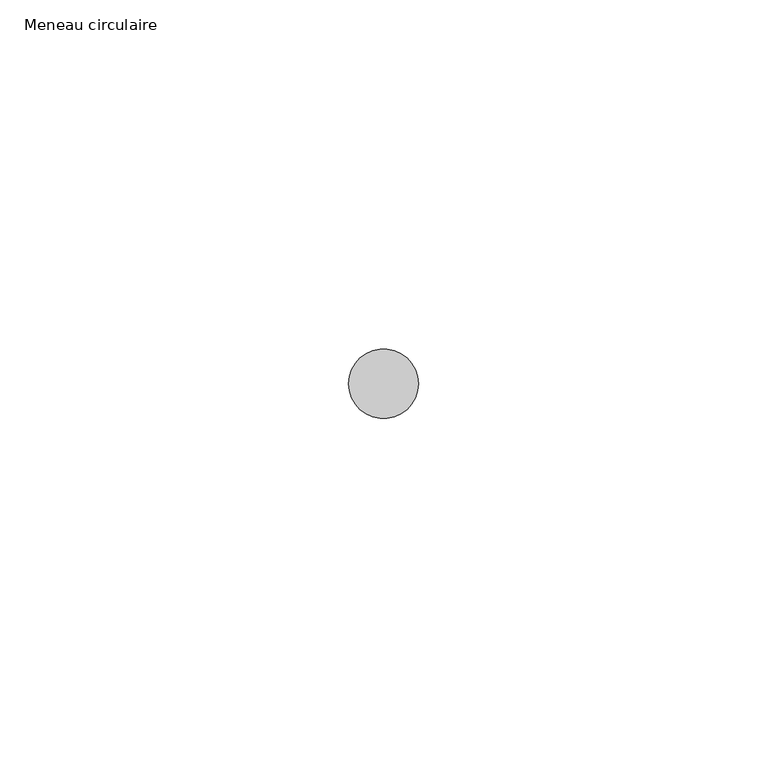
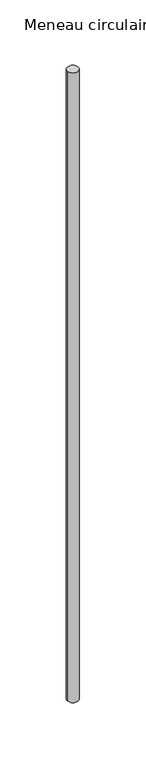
"""IFC4 building model written with IfcOpenShell, lengths in millimetres: member geometry, Meneau circulaire : Diamètre 1cm."""

from ifc_helpers import new_model, si_unit, point, frame, origin, origin_2d, place, context, project, spatial, circle_curve, trimmed, segment, composite_curve, outline, extrude, source, transform, mapped, element, save


def meneau_circulaire_4e4b9db8(model_context):
    return source(origin(), model_context, "Body", "SweptSolid", [
        extrude(outline(composite_curve([segment(trimmed(circle_curve(origin_2d(), 5.0), [point((5.0, 0.0))], [point((-5.0, 0.0))], False, "CARTESIAN"), True, "CONTINUOUS"), segment(trimmed(circle_curve(origin_2d(), 5.0), [point((-5.0, 0.0))], [point((5.0, 0.0))], False, "CARTESIAN"), True, "CONTINUOUS")], self_intersect=False)), frame((0.0, 0.0, -600.0), z_axis=(0.0, 0.0, 1.0), x_axis=(1.0, 0.0, 0.0)), (0.0, 0.0, 1.0), 600.0),
    ])


if __name__ == "__main__":
    model = new_model("IFC4")
    model_context = context("Model", 3, world=origin())
    ifc_project = project(units=[si_unit("LENGTHUNIT", "METRE", prefix="MILLI")], contexts=[model_context])
    site = spatial("IfcSite", under=ifc_project)
    building = spatial("IfcBuilding", under=site)
    placement = place(None, origin())
    meneau_circulaire_shape = meneau_circulaire_4e4b9db8(model_context)
    element("IfcMember", 1, ObjectType="Meneau circulaire : Diamètre 1cm", at=placement, inside=building, context=model_context, shape_type="MappedRepresentation", body=[
        mapped(meneau_circulaire_shape, transform((0.0, 0.0, 0.0), x_axis=(1.0, 0.0, 0.0), y_axis=(0.0, 1.0, 0.0), z_axis=(0.0, 0.0, 1.0))),
    ])
    save(model, "model.ifc")
